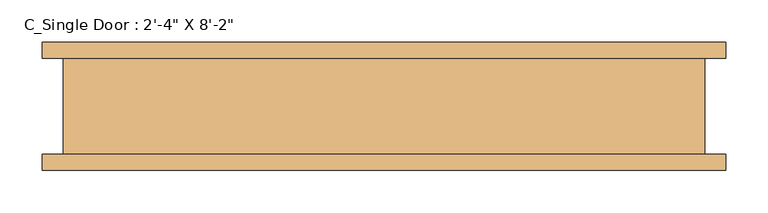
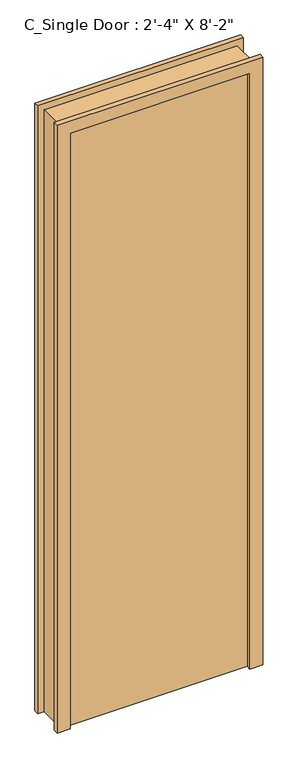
"""IFC4 building model written with IfcOpenShell, lengths in millimetres: door geometry."""

from ifc_helpers import new_model, si_unit, frame, origin, origin_with_axes, place, context, project, spatial, polyline, outline, extrude, source, transform, mapped, element, save


def door_855f9067(model_context):
    return source(origin(), model_context, "Body", "SweptSolid", [
        extrude(outline(polyline([(355.6, -57.15), (-355.6, -57.15), (-355.6, -6.35), (355.6, -6.35), (355.6, -57.15)])), origin_with_axes(), (0.0, 0.0, 1.0), 2489.2),
        extrude(outline(polyline([(2489.2, -355.6), (2489.2, 355.6), (0.0, 355.6), (0.0, 406.4), (2540.0, 406.4), (2540.0, -406.4), (0.0, -406.4), (0.0, -355.6), (2489.2, -355.6)])), frame((0.0, -76.2, 0.0), z_axis=(0.0, 1.0, 0.0), x_axis=(0.0, 0.0, 1.0)), (0.0, 0.0, 1.0), 19.05),
        extrude(outline(polyline([(2489.2, -355.6), (2489.2, 355.6), (0.0, 355.6), (0.0, 406.4), (2540.0, 406.4), (2540.0, -406.4), (0.0, -406.4), (0.0, -355.6), (2489.2, -355.6)])), frame((0.0, 57.15, 0.0), z_axis=(0.0, 1.0, 0.0), x_axis=(0.0, 0.0, 1.0)), (0.0, 0.0, 1.0), 19.05),
        extrude(outline(polyline([(0.0, -381.0), (0.0, -355.6), (2489.2, -355.6), (2489.2, 355.6), (0.0, 355.6), (0.0, 381.0), (2514.6, 381.0), (2514.6, -381.0), (0.0, -381.0)])), frame((0.0, -57.15, 0.0), z_axis=(0.0, 1.0, 0.0), x_axis=(0.0, 0.0, 1.0)), (0.0, 0.0, 1.0), 114.3),
    ])


if __name__ == "__main__":
    model = new_model("IFC4")
    model_context = context("Model", 3, world=origin())
    ifc_project = project(units=[si_unit("LENGTHUNIT", "METRE", prefix="MILLI")], contexts=[model_context])
    site = spatial("IfcSite", under=ifc_project)
    building = spatial("IfcBuilding", under=site)
    placement = place(None, origin())
    door_shape = door_855f9067(model_context)
    element("IfcDoor", 1, ObjectType="C_Single Door : 2'-4\" X 8'-2\"", at=placement, inside=building, context=model_context, shape_type="MappedRepresentation", body=[
        mapped(door_shape, transform((0.0, 0.0, 0.0), x_axis=(1.0, 0.0, 0.0), y_axis=(0.0, 1.0, 0.0), z_axis=(0.0, 0.0, 1.0))),
    ])
    save(model, "model.ifc")
